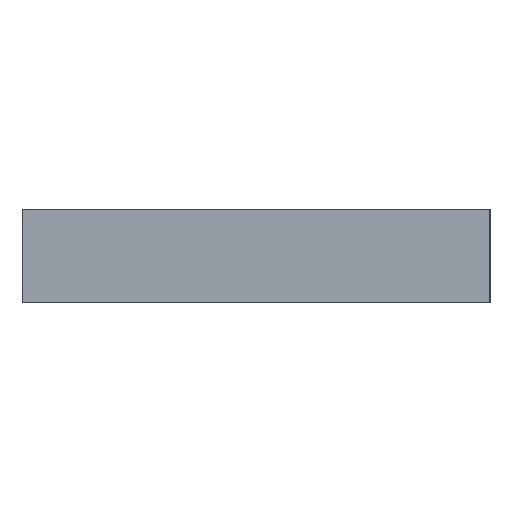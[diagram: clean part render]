
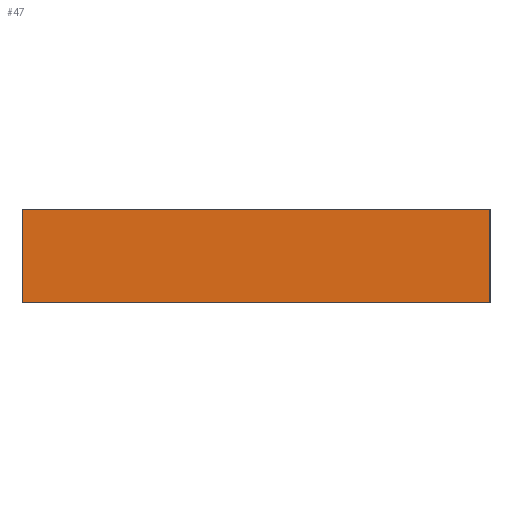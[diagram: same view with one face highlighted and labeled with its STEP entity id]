
A CAD part, left-side view. The second image highlights one B-rep face of the part: STEP entity #47.
In plain terms, the highlighted planar face has unit normal (-1, 0, 0).
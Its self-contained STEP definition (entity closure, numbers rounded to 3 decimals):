
#47 = ADVANCED_FACE('',(#48),#62,.F.);
#48 = FACE_BOUND('',#49,.F.);
#49 = EDGE_LOOP('',(#50,#85,#113,#141));
#50 = ORIENTED_EDGE('',*,*,#51,.F.);
#51 = EDGE_CURVE('',#52,#54,#56,.T.);
#52 = VERTEX_POINT('',#53);
#53 = CARTESIAN_POINT('',(-31.5,-13.5,23.875));
#54 = VERTEX_POINT('',#55);
#55 = CARTESIAN_POINT('',(-31.5,-13.5,24.475));
#56 = SURFACE_CURVE('',#57,(#61,#73),.PCURVE_S1.);
#57 = LINE('',#58,#59);
#58 = CARTESIAN_POINT('',(-31.5,-13.5,23.875));
#59 = VECTOR('',#60,1.);
#60 = DIRECTION('',(0.,0.,1.));
#61 = PCURVE('',#62,#67);
#62 = PLANE('',#63);
#63 = AXIS2_PLACEMENT_3D('',#64,#65,#66);
#64 = CARTESIAN_POINT('',(-31.5,-13.5,23.875));
#65 = DIRECTION('',(1.,0.,0.));
#66 = DIRECTION('',(0.,0.,1.));
#67 = DEFINITIONAL_REPRESENTATION('',(#68),#72);
#68 = LINE('',#69,#70);
#69 = CARTESIAN_POINT('',(0.,0.));
#70 = VECTOR('',#71,1.);
#71 = DIRECTION('',(1.,0.));
#72 = ( GEOMETRIC_REPRESENTATION_CONTEXT(2) 
PARAMETRIC_REPRESENTATION_CONTEXT() REPRESENTATION_CONTEXT('2D SPACE',''
  ) );
#73 = PCURVE('',#74,#79);
#74 = PLANE('',#75);
#75 = AXIS2_PLACEMENT_3D('',#76,#77,#78);
#76 = CARTESIAN_POINT('',(-31.5,-13.5,23.875));
#77 = DIRECTION('',(0.,1.,0.));
#78 = DIRECTION('',(0.,0.,1.));
#79 = DEFINITIONAL_REPRESENTATION('',(#80),#84);
#80 = LINE('',#81,#82);
#81 = CARTESIAN_POINT('',(0.,0.));
#82 = VECTOR('',#83,1.);
#83 = DIRECTION('',(1.,0.));
#84 = ( GEOMETRIC_REPRESENTATION_CONTEXT(2) 
PARAMETRIC_REPRESENTATION_CONTEXT() REPRESENTATION_CONTEXT('2D SPACE',''
  ) );
#85 = ORIENTED_EDGE('',*,*,#86,.T.);
#86 = EDGE_CURVE('',#52,#87,#89,.T.);
#87 = VERTEX_POINT('',#88);
#88 = CARTESIAN_POINT('',(-31.5,-10.5,23.875));
#89 = SURFACE_CURVE('',#90,(#94,#101),.PCURVE_S1.);
#90 = LINE('',#91,#92);
#91 = CARTESIAN_POINT('',(-31.5,-13.5,23.875));
#92 = VECTOR('',#93,1.);
#93 = DIRECTION('',(0.,1.,0.));
#94 = PCURVE('',#62,#95);
#95 = DEFINITIONAL_REPRESENTATION('',(#96),#100);
#96 = LINE('',#97,#98);
#97 = CARTESIAN_POINT('',(0.,0.));
#98 = VECTOR('',#99,1.);
#99 = DIRECTION('',(0.,-1.));
#100 = ( GEOMETRIC_REPRESENTATION_CONTEXT(2) 
PARAMETRIC_REPRESENTATION_CONTEXT() REPRESENTATION_CONTEXT('2D SPACE',''
  ) );
#101 = PCURVE('',#102,#107);
#102 = PLANE('',#103);
#103 = AXIS2_PLACEMENT_3D('',#104,#105,#106);
#104 = CARTESIAN_POINT('',(-31.5,-13.5,23.875));
#105 = DIRECTION('',(0.,0.,1.));
#106 = DIRECTION('',(1.,0.,0.));
#107 = DEFINITIONAL_REPRESENTATION('',(#108),#112);
#108 = LINE('',#109,#110);
#109 = CARTESIAN_POINT('',(0.,0.));
#110 = VECTOR('',#111,1.);
#111 = DIRECTION('',(0.,1.));
#112 = ( GEOMETRIC_REPRESENTATION_CONTEXT(2) 
PARAMETRIC_REPRESENTATION_CONTEXT() REPRESENTATION_CONTEXT('2D SPACE',''
  ) );
#113 = ORIENTED_EDGE('',*,*,#114,.T.);
#114 = EDGE_CURVE('',#87,#115,#117,.T.);
#115 = VERTEX_POINT('',#116);
#116 = CARTESIAN_POINT('',(-31.5,-10.5,24.475));
#117 = SURFACE_CURVE('',#118,(#122,#129),.PCURVE_S1.);
#118 = LINE('',#119,#120);
#119 = CARTESIAN_POINT('',(-31.5,-10.5,23.875));
#120 = VECTOR('',#121,1.);
#121 = DIRECTION('',(0.,0.,1.));
#122 = PCURVE('',#62,#123);
#123 = DEFINITIONAL_REPRESENTATION('',(#124),#128);
#124 = LINE('',#125,#126);
#125 = CARTESIAN_POINT('',(0.,-3.));
#126 = VECTOR('',#127,1.);
#127 = DIRECTION('',(1.,0.));
#128 = ( GEOMETRIC_REPRESENTATION_CONTEXT(2) 
PARAMETRIC_REPRESENTATION_CONTEXT() REPRESENTATION_CONTEXT('2D SPACE',''
  ) );
#129 = PCURVE('',#130,#135);
#130 = PLANE('',#131);
#131 = AXIS2_PLACEMENT_3D('',#132,#133,#134);
#132 = CARTESIAN_POINT('',(-31.5,-10.5,23.875));
#133 = DIRECTION('',(0.,1.,0.));
#134 = DIRECTION('',(0.,0.,1.));
#135 = DEFINITIONAL_REPRESENTATION('',(#136),#140);
#136 = LINE('',#137,#138);
#137 = CARTESIAN_POINT('',(0.,0.));
#138 = VECTOR('',#139,1.);
#139 = DIRECTION('',(1.,0.));
#140 = ( GEOMETRIC_REPRESENTATION_CONTEXT(2) 
PARAMETRIC_REPRESENTATION_CONTEXT() REPRESENTATION_CONTEXT('2D SPACE',''
  ) );
#141 = ORIENTED_EDGE('',*,*,#142,.F.);
#142 = EDGE_CURVE('',#54,#115,#143,.T.);
#143 = SURFACE_CURVE('',#144,(#148,#155),.PCURVE_S1.);
#144 = LINE('',#145,#146);
#145 = CARTESIAN_POINT('',(-31.5,-13.5,24.475));
#146 = VECTOR('',#147,1.);
#147 = DIRECTION('',(0.,1.,0.));
#148 = PCURVE('',#62,#149);
#149 = DEFINITIONAL_REPRESENTATION('',(#150),#154);
#150 = LINE('',#151,#152);
#151 = CARTESIAN_POINT('',(0.6,0.));
#152 = VECTOR('',#153,1.);
#153 = DIRECTION('',(0.,-1.));
#154 = ( GEOMETRIC_REPRESENTATION_CONTEXT(2) 
PARAMETRIC_REPRESENTATION_CONTEXT() REPRESENTATION_CONTEXT('2D SPACE',''
  ) );
#155 = PCURVE('',#156,#161);
#156 = PLANE('',#157);
#157 = AXIS2_PLACEMENT_3D('',#158,#159,#160);
#158 = CARTESIAN_POINT('',(-31.5,-13.5,24.475));
#159 = DIRECTION('',(0.,0.,1.));
#160 = DIRECTION('',(1.,0.,0.));
#161 = DEFINITIONAL_REPRESENTATION('',(#162),#166);
#162 = LINE('',#163,#164);
#163 = CARTESIAN_POINT('',(0.,0.));
#164 = VECTOR('',#165,1.);
#165 = DIRECTION('',(0.,1.));
#166 = ( GEOMETRIC_REPRESENTATION_CONTEXT(2) 
PARAMETRIC_REPRESENTATION_CONTEXT() REPRESENTATION_CONTEXT('2D SPACE',''
  ) );
